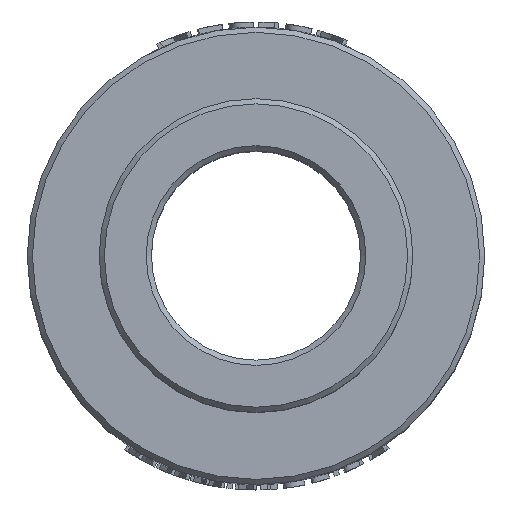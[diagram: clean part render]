
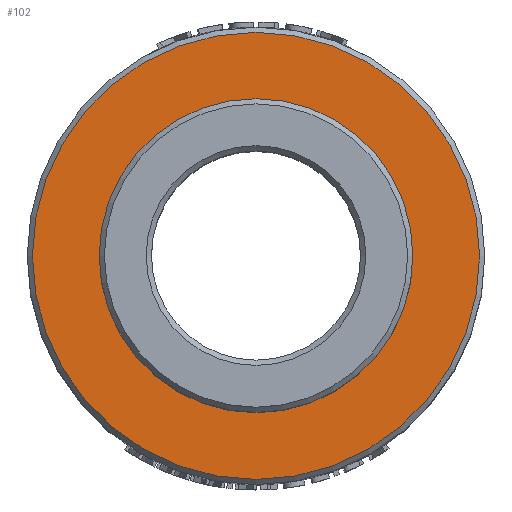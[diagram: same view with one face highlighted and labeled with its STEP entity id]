
A CAD part, top view. The second image highlights one B-rep face of the part: STEP entity #102.
In plain terms, the highlighted planar face has unit normal (0, 0, 1).
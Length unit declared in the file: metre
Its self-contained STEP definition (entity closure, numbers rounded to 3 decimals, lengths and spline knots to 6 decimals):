
#102 = ADVANCED_FACE( '', ( #352, #353 ), #354, .T. );
#352 = FACE_OUTER_BOUND( '', #867, .T. );
#353 = FACE_BOUND( '', #868, .T. );
#354 = PLANE( '', #869 );
#867 = EDGE_LOOP( '', ( #5244 ) );
#868 = EDGE_LOOP( '', ( #5245 ) );
#869 = AXIS2_PLACEMENT_3D( '', #5246, #5247, #5248 );
#5244 = ORIENTED_EDGE( '', *, *, #6283, .T. );
#5245 = ORIENTED_EDGE( '', *, *, #6478, .F. );
#5246 = CARTESIAN_POINT( '', ( 0.012, 0., 0.012 ) );
#5247 = DIRECTION( '', ( 0., 0., 1. ) );
#5248 = DIRECTION( '', ( 1., 0., 0. ) );
#6283 = EDGE_CURVE( '', #6768, #6768, #6769, .T. );
#6478 = EDGE_CURVE( '', #7137, #7137, #7138, .T. );
#6768 = VERTEX_POINT( '', #7581 );
#6769 = CIRCLE( '', #7582, 0.0171 );
#7137 = VERTEX_POINT( '', #8637 );
#7138 = CIRCLE( '', #8638, 0.012 );
#7581 = CARTESIAN_POINT( '', ( 0.0171, 0., 0.012 ) );
#7582 = AXIS2_PLACEMENT_3D( '', #10032, #10033, #10034 );
#8637 = CARTESIAN_POINT( '', ( 0.012, 0., 0.012 ) );
#8638 = AXIS2_PLACEMENT_3D( '', #10245, #10246, #10247 );
#10032 = CARTESIAN_POINT( '', ( 0., 0., 0.012 ) );
#10033 = DIRECTION( '', ( 0., 0., 1. ) );
#10034 = DIRECTION( '', ( 1., 0., 0. ) );
#10245 = CARTESIAN_POINT( '', ( 0., 0., 0.012 ) );
#10246 = DIRECTION( '', ( 0., 0., 1. ) );
#10247 = DIRECTION( '', ( 1., 0., 0. ) );
